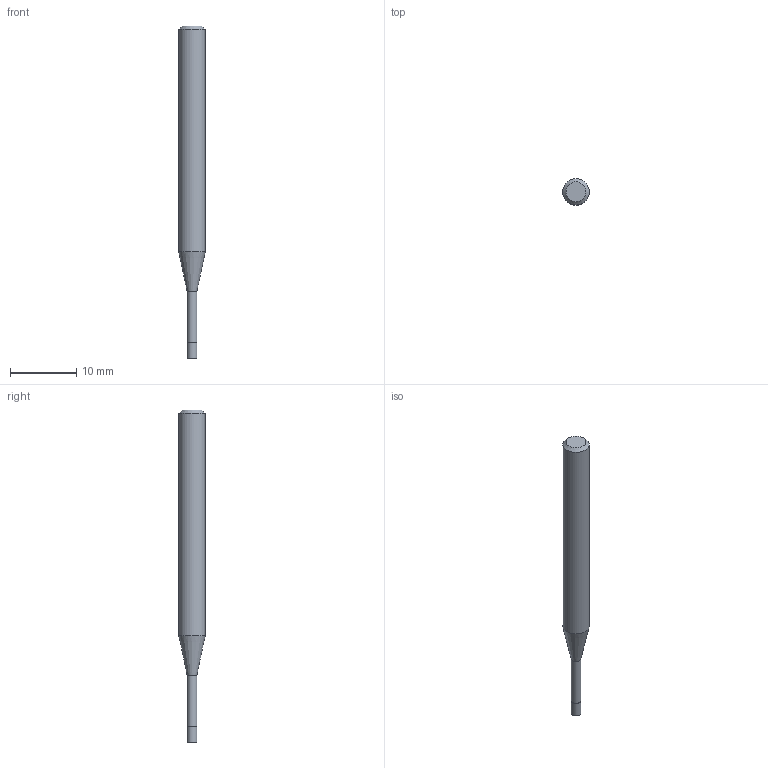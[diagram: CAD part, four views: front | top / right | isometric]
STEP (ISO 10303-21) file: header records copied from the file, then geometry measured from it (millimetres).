
FILE_DESCRIPTION((''),'2;1');
FILE_NAME('C:\Users\nsx150\AppData\Local\Temp\Mastercam 2021\17T8Q8S9EB\TEMP.step','2021-04-21T16:14:50',(''),(''),'STEP Write','Mastercam 2021 ... CNC Software, Inc.','');
FILE_SCHEMA(('AUTOMOTIVE_DESIGN'));
Length unit declared in the file: millimetre
Products named in the file (1): None
Bounding box: 4 x 4 x 50 mm (x, y, z)
Volume: 480.2 mm3; surface area: 539.4 mm2
Topology: 2 solids, 2 shells, 9 faces, 12 edges, 7 vertices
Faces by surface type: plane 4, cylinder 3, cone 2
Full cylindrical faces by diameter (mm): 1.45 x1, 1.5 x1, 4 x1
Entity records: 211 total; most frequent: DIRECTION 36, CARTESIAN_POINT 25, AXIS2_PLACEMENT_3D 18, ORIENTED_EDGE 14, EDGE_LOOP 14, STYLED_ITEM 12, ADVANCED_FACE 9, FACE_BOUND 8
